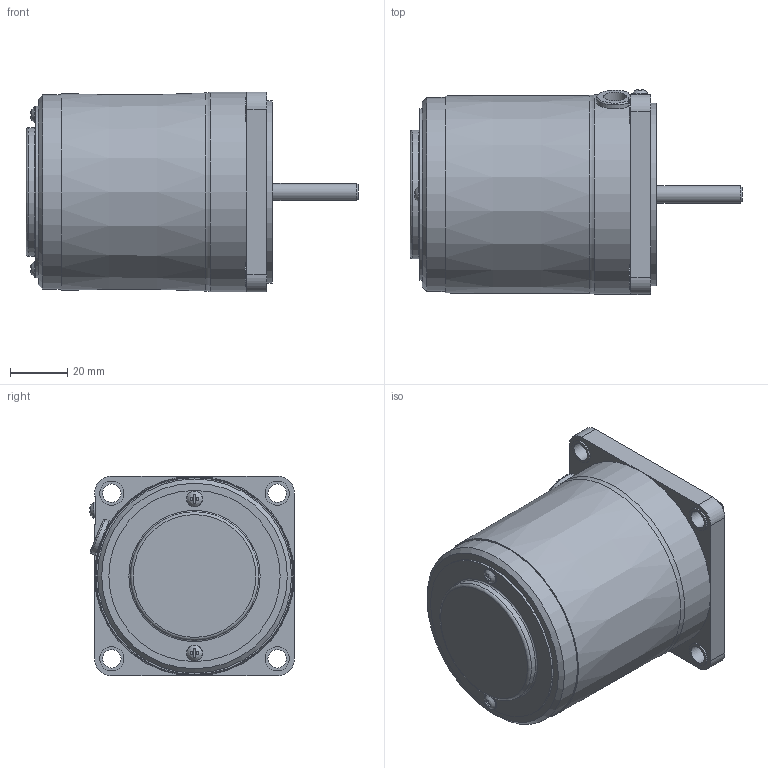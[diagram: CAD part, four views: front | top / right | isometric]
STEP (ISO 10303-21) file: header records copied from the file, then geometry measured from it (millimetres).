
FILE_DESCRIPTION(/* description */ (''),/* implementation_level */ '2;1');
FILE_NAME(/* name */ 'E:\도면작업\2016\0704) 미주향 SG 도면\3D MOTOR\SG6R\SG7R15S\SG7R15S_.stp',/* time_stamp */ '2016-12-12T16:27:50+09:00',/* author */ ('jy-jung'),/* organization */ (''),/* preprocessor_version */ 'ST-DEVELOPER v15.6',/* originating_system */ 'Autodesk Inventor 2015',/* authorisation */ '');
FILE_SCHEMA (('AUTOMOTIVE_DESIGN { 1 0 10303 214 3 1 1 }'));
Length unit declared in the file: millimetre
Products named in the file (1): 부품5
Bounding box: 116.3 x 71.76 x 70 mm (x, y, z)
Volume: 308499.4 mm3; surface area: 34662.4 mm2
Topology: 1 solids, 5 shells, 159 faces, 389 edges, 257 vertices
Faces by surface type: plane 102, cylinder 41, torus 10, bspline 3, cone 3
Full cylindrical faces by diameter (mm): 3 x2, 3.5 x2, 5.6 x3, 6 x1, 6.5 x4, 8 x1, 8.5 x4, 10 x1, 28 x1, 43 x1, 45 x1, 60 x1, 64 x1, 68 x1, 70 x1
Entity records: 4910 total; most frequent: CARTESIAN_POINT 1119, DIRECTION 724, ORIENTED_EDGE 690, EDGE_CURVE 345, AXIS2_PLACEMENT_3D 269, VERTEX_POINT 251, EDGE_LOOP 228, LINE 186
